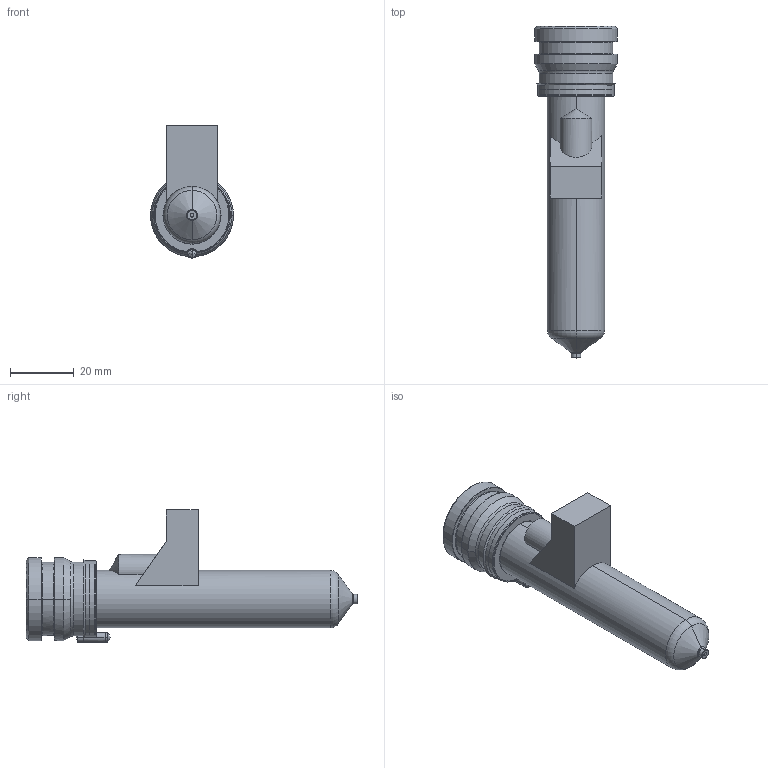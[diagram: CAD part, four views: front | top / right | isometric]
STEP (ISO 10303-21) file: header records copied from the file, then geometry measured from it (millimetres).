
FILE_DESCRIPTION((''),'2;1');
FILE_NAME('MPN-08-24-VP3-086-M','2026-02-05T13:32:32',('UPTIO'),('Thermoplay S.p.A.'),'CREO PARAMETRIC BY PTC INC, 2023494','CREO PARAMETRIC BY PTC INC, 2023494','');
FILE_SCHEMA(('CONFIG_CONTROL_DESIGN','SHAPE_APPEARANCE_LAYERS_GROUPS'));
Length unit declared in the file: millimetre
Products named in the file (1): MPN-08-24-VP3-086-M
Bounding box: 26 x 104.1 x 41.5 mm (x, y, z)
Volume: 21124.8 mm3; surface area: 27500.8 mm2
Topology: 2 solids, 3 shells, 571 faces, 1494 edges, 922 vertices
Faces by surface type: cylinder 178, plane 143, bspline 103, torus 68, cone 66, sphere 7, extrusion 6
Entity records: 30333 total; most frequent: CARTESIAN_POINT 13823, ORIENTED_EDGE 2970, DIRECTION 2631, EDGE_CURVE 1485, AXIS2_PLACEMENT_3D 1029, VERTEX_POINT 922, EDGE_LOOP 601, VECTOR 573
